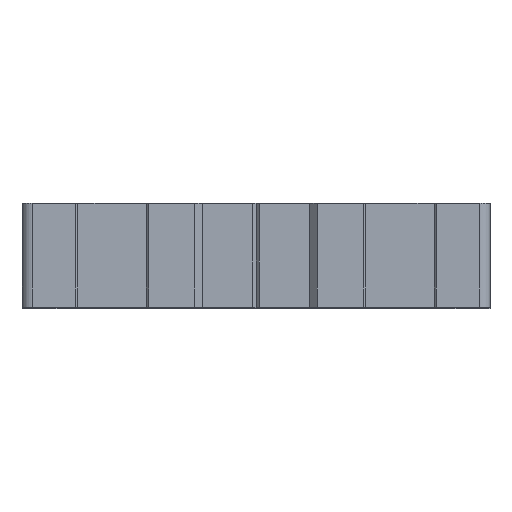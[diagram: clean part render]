
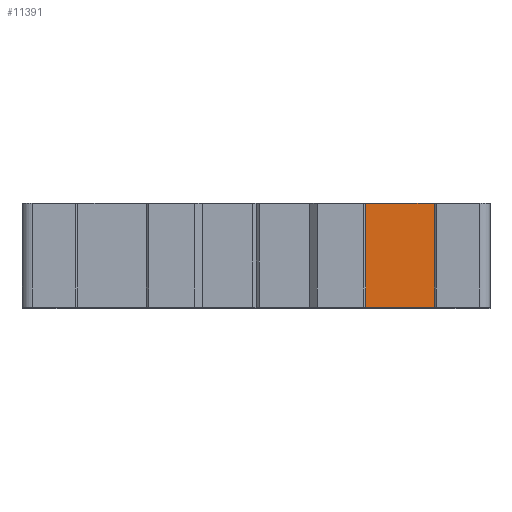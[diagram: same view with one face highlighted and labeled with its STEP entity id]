
A CAD part, top view. The second image highlights one B-rep face of the part: STEP entity #11391.
In plain terms, the highlighted planar face has unit normal (0, 0, 1).
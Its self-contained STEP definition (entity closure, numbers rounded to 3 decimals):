
#1027=DIRECTION('',(-1.,0.,0.));
#1028=VECTOR('',#1027,6.6);
#1029=CARTESIAN_POINT('',(17.13,0.,44.8));
#1030=LINE('',#1029,#1028);
#2293=DIRECTION('',(-1.,0.,0.));
#2294=VECTOR('',#2293,6.6);
#2295=CARTESIAN_POINT('',(17.13,10.,44.8));
#2296=LINE('',#2295,#2294);
#4221=DIRECTION('',(0.,1.,0.));
#4222=VECTOR('',#4221,10.);
#4223=CARTESIAN_POINT('',(17.13,0.,44.8));
#4224=LINE('',#4223,#4222);
#4225=DIRECTION('',(0.,1.,0.));
#4226=VECTOR('',#4225,10.);
#4227=CARTESIAN_POINT('',(10.53,0.,44.8));
#4228=LINE('',#4227,#4226);
#5770=CARTESIAN_POINT('',(17.13,0.,44.8));
#5772=VERTEX_POINT('',#5770);
#5773=CARTESIAN_POINT('',(10.53,0.,44.8));
#5774=VERTEX_POINT('',#5773);
#5840=CARTESIAN_POINT('',(17.13,10.,44.8));
#5842=VERTEX_POINT('',#5840);
#5843=CARTESIAN_POINT('',(10.53,10.,44.8));
#5844=VERTEX_POINT('',#5843);
#11379=CARTESIAN_POINT('',(17.13,0.,44.8));
#11380=DIRECTION('',(0.,0.,-1.));
#11381=DIRECTION('',(-1.,0.,0.));
#11382=AXIS2_PLACEMENT_3D('',#11379,#11380,#11381);
#11383=PLANE('',#11382);
#11384=ORIENTED_EDGE('',*,*,#6236,.T.);
#11386=ORIENTED_EDGE('',*,*,#11385,.T.);
#11387=ORIENTED_EDGE('',*,*,#7182,.F.);
#11388=ORIENTED_EDGE('',*,*,#11372,.F.);
#11389=EDGE_LOOP('',(#11384,#11386,#11387,#11388));
#11390=FACE_OUTER_BOUND('',#11389,.F.);
#11391=ADVANCED_FACE('',(#11390),#11383,.F.);
#6236=EDGE_CURVE('',#5772,#5774,#1030,.T.);
#7182=EDGE_CURVE('',#5842,#5844,#2296,.T.);
#11372=EDGE_CURVE('',#5772,#5842,#4224,.T.);
#11385=EDGE_CURVE('',#5774,#5844,#4228,.T.);
